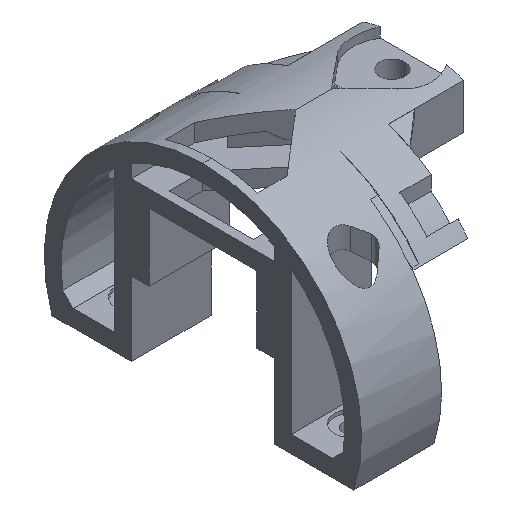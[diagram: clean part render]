
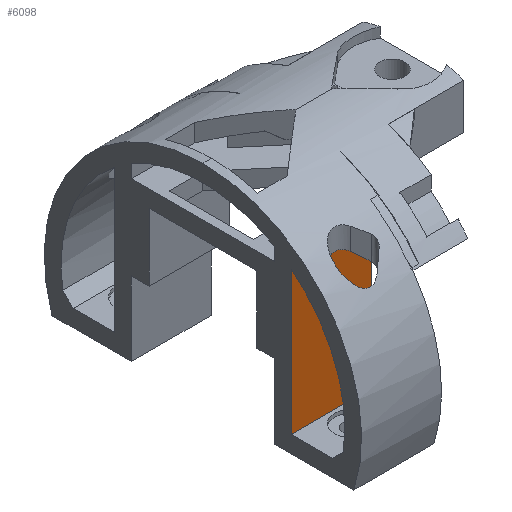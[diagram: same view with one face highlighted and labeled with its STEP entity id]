
A CAD part, isometric view. The second image highlights one B-rep face of the part: STEP entity #6098.
In plain terms, the highlighted planar face has unit normal (0, -1, 0).
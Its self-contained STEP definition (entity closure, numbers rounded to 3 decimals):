
#180 = PLANE('',#181);
#181 = AXIS2_PLACEMENT_3D('',#182,#183,#184);
#182 = CARTESIAN_POINT('',(80.,0.,0.));
#183 = DIRECTION('',(1.,0.,0.));
#184 = DIRECTION('',(-0.,0.,1.));
#613 = PLANE('',#614);
#614 = AXIS2_PLACEMENT_3D('',#615,#616,#617);
#615 = CARTESIAN_POINT('',(96.,0.,0.));
#616 = DIRECTION('',(1.,0.,0.));
#617 = DIRECTION('',(-0.,0.,1.));
#2447 = PLANE('',#2448);
#2448 = AXIS2_PLACEMENT_3D('',#2449,#2450,#2451);
#2449 = CARTESIAN_POINT('',(80.,8.5,11.));
#2450 = DIRECTION('',(0.,0.,1.));
#2451 = DIRECTION('',(1.,0.,-0.));
#2640 = VERTEX_POINT('',#2641);
#2641 = CARTESIAN_POINT('',(89.5,-10.5,11.));
#2655 = PLANE('',#2656);
#2656 = AXIS2_PLACEMENT_3D('',#2657,#2658,#2659);
#2657 = CARTESIAN_POINT('',(89.5,0.,0.));
#2658 = DIRECTION('',(1.,0.,0.));
#2659 = DIRECTION('',(-0.,0.,1.));
#2667 = EDGE_CURVE('',#2640,#2668,#2670,.T.);
#2668 = VERTEX_POINT('',#2669);
#2669 = CARTESIAN_POINT('',(96.,-10.5,11.));
#2670 = SURFACE_CURVE('',#2671,(#2675,#2682),.PCURVE_S1.);
#2671 = LINE('',#2672,#2673);
#2672 = CARTESIAN_POINT('',(80.,-10.5,11.));
#2673 = VECTOR('',#2674,1.);
#2674 = DIRECTION('',(1.,0.,-0.));
#2675 = PCURVE('',#2447,#2676);
#2676 = DEFINITIONAL_REPRESENTATION('',(#2677),#2681);
#2677 = LINE('',#2678,#2679);
#2678 = CARTESIAN_POINT('',(0.,-19.));
#2679 = VECTOR('',#2680,1.);
#2680 = DIRECTION('',(1.,0.));
#2681 = ( GEOMETRIC_REPRESENTATION_CONTEXT(2) 
PARAMETRIC_REPRESENTATION_CONTEXT() REPRESENTATION_CONTEXT('2D SPACE',''
  ) );
#2682 = PCURVE('',#2683,#2688);
#2683 = PLANE('',#2684);
#2684 = AXIS2_PLACEMENT_3D('',#2685,#2686,#2687);
#2685 = CARTESIAN_POINT('',(80.,-10.5,11.));
#2686 = DIRECTION('',(-0.,1.,0.));
#2687 = DIRECTION('',(0.,0.,1.));
#2688 = DEFINITIONAL_REPRESENTATION('',(#2689),#2693);
#2689 = LINE('',#2690,#2691);
#2690 = CARTESIAN_POINT('',(0.,0.));
#2691 = VECTOR('',#2692,1.);
#2692 = DIRECTION('',(0.,1.));
#2693 = ( GEOMETRIC_REPRESENTATION_CONTEXT(2) 
PARAMETRIC_REPRESENTATION_CONTEXT() REPRESENTATION_CONTEXT('2D SPACE',''
  ) );
#6098 = ADVANCED_FACE('',(#6099),#2683,.F.);
#6099 = FACE_BOUND('',#6100,.F.);
#6100 = EDGE_LOOP('',(#6101,#6126,#6154,#6180,#6206,#6227,#6228,#6251));
#6101 = ORIENTED_EDGE('',*,*,#6102,.T.);
#6102 = EDGE_CURVE('',#6103,#6105,#6107,.T.);
#6103 = VERTEX_POINT('',#6104);
#6104 = CARTESIAN_POINT('',(80.,-10.5,-3.8));
#6105 = VERTEX_POINT('',#6106);
#6106 = CARTESIAN_POINT('',(80.,-10.5,13.178));
#6107 = SURFACE_CURVE('',#6108,(#6112,#6119),.PCURVE_S1.);
#6108 = LINE('',#6109,#6110);
#6109 = CARTESIAN_POINT('',(80.,-10.5,-3.8));
#6110 = VECTOR('',#6111,1.);
#6111 = DIRECTION('',(0.,0.,1.));
#6112 = PCURVE('',#2683,#6113);
#6113 = DEFINITIONAL_REPRESENTATION('',(#6114),#6118);
#6114 = LINE('',#6115,#6116);
#6115 = CARTESIAN_POINT('',(-14.8,0.));
#6116 = VECTOR('',#6117,1.);
#6117 = DIRECTION('',(1.,0.));
#6118 = ( GEOMETRIC_REPRESENTATION_CONTEXT(2) 
PARAMETRIC_REPRESENTATION_CONTEXT() REPRESENTATION_CONTEXT('2D SPACE',''
  ) );
#6119 = PCURVE('',#180,#6120);
#6120 = DEFINITIONAL_REPRESENTATION('',(#6121),#6125);
#6121 = LINE('',#6122,#6123);
#6122 = CARTESIAN_POINT('',(-3.8,10.5));
#6123 = VECTOR('',#6124,1.);
#6124 = DIRECTION('',(1.,0.));
#6125 = ( GEOMETRIC_REPRESENTATION_CONTEXT(2) 
PARAMETRIC_REPRESENTATION_CONTEXT() REPRESENTATION_CONTEXT('2D SPACE',''
  ) );
#6126 = ORIENTED_EDGE('',*,*,#6127,.T.);
#6127 = EDGE_CURVE('',#6105,#6128,#6130,.T.);
#6128 = VERTEX_POINT('',#6129);
#6129 = CARTESIAN_POINT('',(91.,-10.5,13.178));
#6130 = SURFACE_CURVE('',#6131,(#6135,#6142),.PCURVE_S1.);
#6131 = LINE('',#6132,#6133);
#6132 = CARTESIAN_POINT('',(80.,-10.5,13.178));
#6133 = VECTOR('',#6134,1.);
#6134 = DIRECTION('',(1.,0.,0.));
#6135 = PCURVE('',#2683,#6136);
#6136 = DEFINITIONAL_REPRESENTATION('',(#6137),#6141);
#6137 = LINE('',#6138,#6139);
#6138 = CARTESIAN_POINT('',(2.178,0.));
#6139 = VECTOR('',#6140,1.);
#6140 = DIRECTION('',(0.,1.));
#6141 = ( GEOMETRIC_REPRESENTATION_CONTEXT(2) 
PARAMETRIC_REPRESENTATION_CONTEXT() REPRESENTATION_CONTEXT('2D SPACE',''
  ) );
#6142 = PCURVE('',#6143,#6148);
#6143 = CYLINDRICAL_SURFACE('',#6144,16.85);
#6144 = AXIS2_PLACEMENT_3D('',#6145,#6146,#6147);
#6145 = CARTESIAN_POINT('',(79.,0.,0.));
#6146 = DIRECTION('',(1.,0.,0.));
#6147 = DIRECTION('',(-0.,0.,1.));
#6148 = DEFINITIONAL_REPRESENTATION('',(#6149),#6153);
#6149 = LINE('',#6150,#6151);
#6150 = CARTESIAN_POINT('',(0.673,1.));
#6151 = VECTOR('',#6152,1.);
#6152 = DIRECTION('',(0.,1.));
#6153 = ( GEOMETRIC_REPRESENTATION_CONTEXT(2) 
PARAMETRIC_REPRESENTATION_CONTEXT() REPRESENTATION_CONTEXT('2D SPACE',''
  ) );
#6154 = ORIENTED_EDGE('',*,*,#6155,.T.);
#6155 = EDGE_CURVE('',#6128,#6156,#6158,.T.);
#6156 = VERTEX_POINT('',#6157);
#6157 = CARTESIAN_POINT('',(91.,-10.5,11.537));
#6158 = SURFACE_CURVE('',#6159,(#6163,#6169),.PCURVE_S1.);
#6159 = LINE('',#6160,#6161);
#6160 = CARTESIAN_POINT('',(91.,-10.5,5.5));
#6161 = VECTOR('',#6162,1.);
#6162 = DIRECTION('',(0.,0.,-1.));
#6163 = PCURVE('',#2683,#6164);
#6164 = DEFINITIONAL_REPRESENTATION('',(#6165),#6168);
#6165 = B_SPLINE_CURVE_WITH_KNOTS('',1,(#6166,#6167),.UNSPECIFIED.,.F.,
  .F.,(2,2),(-7.678,-5.4),.PIECEWISE_BEZIER_KNOTS.);
#6166 = CARTESIAN_POINT('',(2.178,11.));
#6167 = CARTESIAN_POINT('',(-0.1,11.));
#6168 = ( GEOMETRIC_REPRESENTATION_CONTEXT(2) 
PARAMETRIC_REPRESENTATION_CONTEXT() REPRESENTATION_CONTEXT('2D SPACE',''
  ) );
#6169 = PCURVE('',#6170,#6175);
#6170 = PLANE('',#6171);
#6171 = AXIS2_PLACEMENT_3D('',#6172,#6173,#6174);
#6172 = CARTESIAN_POINT('',(91.,0.,0.));
#6173 = DIRECTION('',(1.,0.,0.));
#6174 = DIRECTION('',(-0.,0.,1.));
#6175 = DEFINITIONAL_REPRESENTATION('',(#6176),#6179);
#6176 = B_SPLINE_CURVE_WITH_KNOTS('',1,(#6177,#6178),.UNSPECIFIED.,.F.,
  .F.,(2,2),(-7.678,-5.4),.PIECEWISE_BEZIER_KNOTS.);
#6177 = CARTESIAN_POINT('',(13.178,10.5));
#6178 = CARTESIAN_POINT('',(10.9,10.5));
#6179 = ( GEOMETRIC_REPRESENTATION_CONTEXT(2) 
PARAMETRIC_REPRESENTATION_CONTEXT() REPRESENTATION_CONTEXT('2D SPACE',''
  ) );
#6180 = ORIENTED_EDGE('',*,*,#6181,.T.);
#6181 = EDGE_CURVE('',#6156,#6182,#6184,.T.);
#6182 = VERTEX_POINT('',#6183);
#6183 = CARTESIAN_POINT('',(96.,-10.5,11.537));
#6184 = SURFACE_CURVE('',#6185,(#6189,#6195),.PCURVE_S1.);
#6185 = LINE('',#6186,#6187);
#6186 = CARTESIAN_POINT('',(90.,-10.5,11.537));
#6187 = VECTOR('',#6188,1.);
#6188 = DIRECTION('',(1.,0.,0.));
#6189 = PCURVE('',#2683,#6190);
#6190 = DEFINITIONAL_REPRESENTATION('',(#6191),#6194);
#6191 = B_SPLINE_CURVE_WITH_KNOTS('',1,(#6192,#6193),.UNSPECIFIED.,.F.,
  .F.,(2,2),(1.,6.),.PIECEWISE_BEZIER_KNOTS.);
#6192 = CARTESIAN_POINT('',(0.537,11.));
#6193 = CARTESIAN_POINT('',(0.537,16.));
#6194 = ( GEOMETRIC_REPRESENTATION_CONTEXT(2) 
PARAMETRIC_REPRESENTATION_CONTEXT() REPRESENTATION_CONTEXT('2D SPACE',''
  ) );
#6195 = PCURVE('',#6196,#6201);
#6196 = CYLINDRICAL_SURFACE('',#6197,15.6);
#6197 = AXIS2_PLACEMENT_3D('',#6198,#6199,#6200);
#6198 = CARTESIAN_POINT('',(90.,0.,0.));
#6199 = DIRECTION('',(1.,0.,0.));
#6200 = DIRECTION('',(-0.,0.,1.));
#6201 = DEFINITIONAL_REPRESENTATION('',(#6202),#6205);
#6202 = B_SPLINE_CURVE_WITH_KNOTS('',1,(#6203,#6204),.UNSPECIFIED.,.F.,
  .F.,(2,2),(1.,6.),.PIECEWISE_BEZIER_KNOTS.);
#6203 = CARTESIAN_POINT('',(0.738,1.));
#6204 = CARTESIAN_POINT('',(0.738,6.));
#6205 = ( GEOMETRIC_REPRESENTATION_CONTEXT(2) 
PARAMETRIC_REPRESENTATION_CONTEXT() REPRESENTATION_CONTEXT('2D SPACE',''
  ) );
#6206 = ORIENTED_EDGE('',*,*,#6207,.T.);
#6207 = EDGE_CURVE('',#6182,#2668,#6208,.T.);
#6208 = SURFACE_CURVE('',#6209,(#6213,#6220),.PCURVE_S1.);
#6209 = LINE('',#6210,#6211);
#6210 = CARTESIAN_POINT('',(96.,-10.5,13.178));
#6211 = VECTOR('',#6212,1.);
#6212 = DIRECTION('',(0.,0.,-1.));
#6213 = PCURVE('',#2683,#6214);
#6214 = DEFINITIONAL_REPRESENTATION('',(#6215),#6219);
#6215 = LINE('',#6216,#6217);
#6216 = CARTESIAN_POINT('',(2.178,16.));
#6217 = VECTOR('',#6218,1.);
#6218 = DIRECTION('',(-1.,0.));
#6219 = ( GEOMETRIC_REPRESENTATION_CONTEXT(2) 
PARAMETRIC_REPRESENTATION_CONTEXT() REPRESENTATION_CONTEXT('2D SPACE',''
  ) );
#6220 = PCURVE('',#613,#6221);
#6221 = DEFINITIONAL_REPRESENTATION('',(#6222),#6226);
#6222 = LINE('',#6223,#6224);
#6223 = CARTESIAN_POINT('',(13.178,10.5));
#6224 = VECTOR('',#6225,1.);
#6225 = DIRECTION('',(-1.,0.));
#6226 = ( GEOMETRIC_REPRESENTATION_CONTEXT(2) 
PARAMETRIC_REPRESENTATION_CONTEXT() REPRESENTATION_CONTEXT('2D SPACE',''
  ) );
#6227 = ORIENTED_EDGE('',*,*,#2667,.F.);
#6228 = ORIENTED_EDGE('',*,*,#6229,.F.);
#6229 = EDGE_CURVE('',#6230,#2640,#6232,.T.);
#6230 = VERTEX_POINT('',#6231);
#6231 = CARTESIAN_POINT('',(89.5,-10.5,-3.8));
#6232 = SURFACE_CURVE('',#6233,(#6237,#6244),.PCURVE_S1.);
#6233 = LINE('',#6234,#6235);
#6234 = CARTESIAN_POINT('',(89.5,-10.5,-3.81));
#6235 = VECTOR('',#6236,1.);
#6236 = DIRECTION('',(0.,0.,1.));
#6237 = PCURVE('',#2683,#6238);
#6238 = DEFINITIONAL_REPRESENTATION('',(#6239),#6243);
#6239 = LINE('',#6240,#6241);
#6240 = CARTESIAN_POINT('',(-14.81,9.5));
#6241 = VECTOR('',#6242,1.);
#6242 = DIRECTION('',(1.,0.));
#6243 = ( GEOMETRIC_REPRESENTATION_CONTEXT(2) 
PARAMETRIC_REPRESENTATION_CONTEXT() REPRESENTATION_CONTEXT('2D SPACE',''
  ) );
#6244 = PCURVE('',#2655,#6245);
#6245 = DEFINITIONAL_REPRESENTATION('',(#6246),#6250);
#6246 = LINE('',#6247,#6248);
#6247 = CARTESIAN_POINT('',(-3.81,10.5));
#6248 = VECTOR('',#6249,1.);
#6249 = DIRECTION('',(1.,0.));
#6250 = ( GEOMETRIC_REPRESENTATION_CONTEXT(2) 
PARAMETRIC_REPRESENTATION_CONTEXT() REPRESENTATION_CONTEXT('2D SPACE',''
  ) );
#6251 = ORIENTED_EDGE('',*,*,#6252,.T.);
#6252 = EDGE_CURVE('',#6230,#6103,#6253,.T.);
#6253 = SURFACE_CURVE('',#6254,(#6258,#6265),.PCURVE_S1.);
#6254 = LINE('',#6255,#6256);
#6255 = CARTESIAN_POINT('',(80.,-10.5,-3.8));
#6256 = VECTOR('',#6257,1.);
#6257 = DIRECTION('',(-1.,-0.,0.));
#6258 = PCURVE('',#2683,#6259);
#6259 = DEFINITIONAL_REPRESENTATION('',(#6260),#6264);
#6260 = LINE('',#6261,#6262);
#6261 = CARTESIAN_POINT('',(-14.8,0.));
#6262 = VECTOR('',#6263,1.);
#6263 = DIRECTION('',(0.,-1.));
#6264 = ( GEOMETRIC_REPRESENTATION_CONTEXT(2) 
PARAMETRIC_REPRESENTATION_CONTEXT() REPRESENTATION_CONTEXT('2D SPACE',''
  ) );
#6265 = PCURVE('',#6266,#6271);
#6266 = PLANE('',#6267);
#6267 = AXIS2_PLACEMENT_3D('',#6268,#6269,#6270);
#6268 = CARTESIAN_POINT('',(80.,-30.,-3.8));
#6269 = DIRECTION('',(0.,0.,1.));
#6270 = DIRECTION('',(1.,0.,-0.));
#6271 = DEFINITIONAL_REPRESENTATION('',(#6272),#6275);
#6272 = B_SPLINE_CURVE_WITH_KNOTS('',1,(#6273,#6274),.UNSPECIFIED.,.F.,
  .F.,(2,2),(-9.5,0.),.PIECEWISE_BEZIER_KNOTS.);
#6273 = CARTESIAN_POINT('',(9.5,19.5));
#6274 = CARTESIAN_POINT('',(0.,19.5));
#6275 = ( GEOMETRIC_REPRESENTATION_CONTEXT(2) 
PARAMETRIC_REPRESENTATION_CONTEXT() REPRESENTATION_CONTEXT('2D SPACE',''
  ) );
